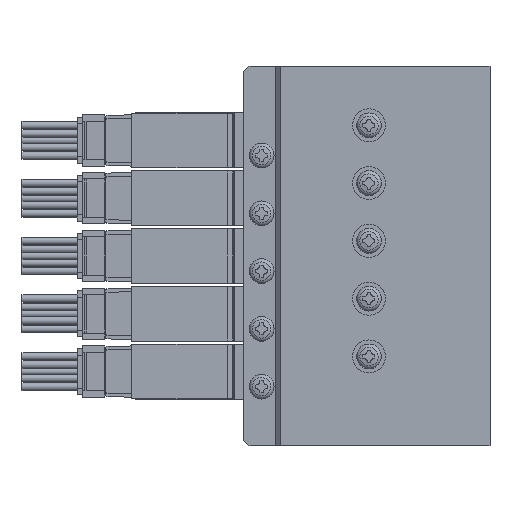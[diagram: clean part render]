
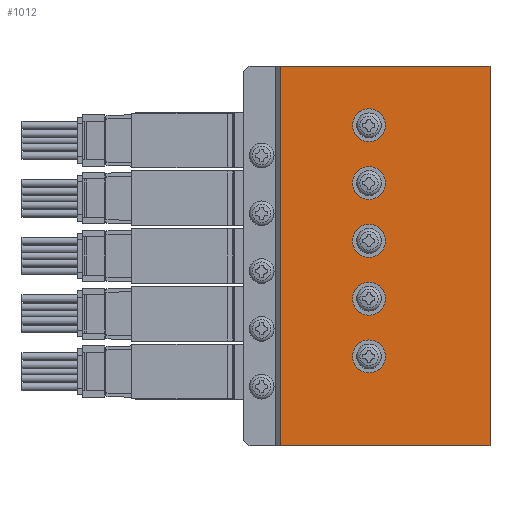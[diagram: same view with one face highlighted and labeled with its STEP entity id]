
A CAD part, left-side view. The second image highlights one B-rep face of the part: STEP entity #1012.
In plain terms, the highlighted planar face has unit normal (-1, 0, 0) as drawn and (1, 0, 0) by its records, which use the part's own axes.
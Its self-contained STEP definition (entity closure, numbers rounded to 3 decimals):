
#1012=ADVANCED_FACE('',(#2346,#2347,#2348,#2349,#2350,#2351),#2352,.F.);
#2346=FACE_OUTER_BOUND('',#3807,.T.);
#2347=FACE_BOUND('',#3808,.T.);
#2348=FACE_BOUND('',#3809,.T.);
#2349=FACE_BOUND('',#3810,.T.);
#2350=FACE_BOUND('',#3811,.T.);
#2351=FACE_BOUND('',#3812,.T.);
#2352=PLANE('',#3813);
#3807=EDGE_LOOP('',(#8200,#8201,#8202,#8203));
#3808=EDGE_LOOP('',(#8204));
#3809=EDGE_LOOP('',(#8205));
#3810=EDGE_LOOP('',(#8206));
#3811=EDGE_LOOP('',(#8207));
#3812=EDGE_LOOP('',(#8208));
#3813=AXIS2_PLACEMENT_3D('',#8209,#8210,#8211);
#8200=ORIENTED_EDGE('',*,*,#9803,.T.);
#8201=ORIENTED_EDGE('',*,*,#10077,.F.);
#8202=ORIENTED_EDGE('',*,*,#9794,.F.);
#8203=ORIENTED_EDGE('',*,*,#10164,.T.);
#8204=ORIENTED_EDGE('',*,*,#10029,.F.);
#8205=ORIENTED_EDGE('',*,*,#10126,.F.);
#8206=ORIENTED_EDGE('',*,*,#9911,.F.);
#8207=ORIENTED_EDGE('',*,*,#10165,.F.);
#8208=ORIENTED_EDGE('',*,*,#10111,.F.);
#8209=CARTESIAN_POINT('',(19.0,0.0,34.5));
#8210=DIRECTION('',(-1.0,0.0,0.0));
#8211=DIRECTION('',(0.0,0.0,1.0));
#9794=EDGE_CURVE('',#11975,#11977,#11978,.T.);
#9803=EDGE_CURVE('',#11995,#11993,#11996,.T.);
#9911=EDGE_CURVE('',#12183,#12183,#12184,.T.);
#10029=EDGE_CURVE('',#12390,#12390,#12391,.T.);
#10077=EDGE_CURVE('',#11977,#11993,#12472,.T.);
#10111=EDGE_CURVE('',#12527,#12527,#12528,.T.);
#10126=EDGE_CURVE('',#12551,#12551,#12552,.T.);
#10164=EDGE_CURVE('',#11975,#11995,#12609,.T.);
#10165=EDGE_CURVE('',#12610,#12610,#12611,.T.);
#11975=VERTEX_POINT('',#15920);
#11977=VERTEX_POINT('',#15923);
#11978=LINE('',#15924,#15925);
#11993=VERTEX_POINT('',#15945);
#11995=VERTEX_POINT('',#15948);
#11996=LINE('',#15949,#15950);
#12183=VERTEX_POINT('',#16308);
#12184=CIRCLE('',#16309,3.0);
#12390=VERTEX_POINT('',#16853);
#12391=CIRCLE('',#16854,3.0);
#12472=LINE('',#17041,#17042);
#12527=VERTEX_POINT('',#17172);
#12528=CIRCLE('',#17173,3.0);
#12551=VERTEX_POINT('',#17205);
#12552=CIRCLE('',#17206,3.0);
#12609=LINE('',#17322,#17323);
#12610=VERTEX_POINT('',#17324);
#12611=CIRCLE('',#17325,3.0);
#15920=CARTESIAN_POINT('',(19.0,0.0,34.5));
#15923=CARTESIAN_POINT('',(19.0,38.0,34.5));
#15924=CARTESIAN_POINT('',(19.0,0.0,34.5));
#15925=VECTOR('',#18821,1.0);
#15945=CARTESIAN_POINT('',(19.0,38.0,-34.5));
#15948=CARTESIAN_POINT('',(19.0,0.0,-34.5));
#15949=CARTESIAN_POINT('',(19.0,0.0,-34.5));
#15950=VECTOR('',#18834,1.0);
#16308=CARTESIAN_POINT('',(19.0,22.0,-16.25));
#16309=AXIS2_PLACEMENT_3D('',#19028,#19029,#19030);
#16853=CARTESIAN_POINT('',(19.0,22.0,15.25));
#16854=AXIS2_PLACEMENT_3D('',#19226,#19227,#19228);
#17041=CARTESIAN_POINT('',(19.0,38.0,34.5));
#17042=VECTOR('',#19305,1.0);
#17172=CARTESIAN_POINT('',(19.0,22.0,4.75));
#17173=AXIS2_PLACEMENT_3D('',#19364,#19365,#19366);
#17205=CARTESIAN_POINT('',(19.0,22.0,-26.75));
#17206=AXIS2_PLACEMENT_3D('',#19391,#19392,#19393);
#17322=CARTESIAN_POINT('',(19.0,0.0,34.5));
#17323=VECTOR('',#19462,1.0);
#17324=CARTESIAN_POINT('',(19.0,22.0,-5.75));
#17325=AXIS2_PLACEMENT_3D('',#19463,#19464,#19465);
#18821=DIRECTION('',(0.0,1.0,0.0));
#18834=DIRECTION('',(0.0,1.0,0.0));
#19028=CARTESIAN_POINT('',(19.0,22.0,-13.25));
#19029=DIRECTION('',(1.0,0.0,0.0));
#19030=DIRECTION('',(0.0,0.0,-1.0));
#19226=CARTESIAN_POINT('',(19.0,22.0,18.25));
#19227=DIRECTION('',(1.0,0.0,0.0));
#19228=DIRECTION('',(0.0,0.0,-1.0));
#19305=DIRECTION('',(0.0,0.0,-1.0));
#19364=CARTESIAN_POINT('',(19.0,22.0,7.75));
#19365=DIRECTION('',(1.0,0.0,0.0));
#19366=DIRECTION('',(0.0,0.0,-1.0));
#19391=CARTESIAN_POINT('',(19.0,22.0,-23.75));
#19392=DIRECTION('',(1.0,0.0,0.0));
#19393=DIRECTION('',(0.0,0.0,-1.0));
#19462=DIRECTION('',(0.0,0.0,-1.0));
#19463=CARTESIAN_POINT('',(19.0,22.0,-2.75));
#19464=DIRECTION('',(1.0,0.0,0.0));
#19465=DIRECTION('',(0.0,0.0,-1.0));
